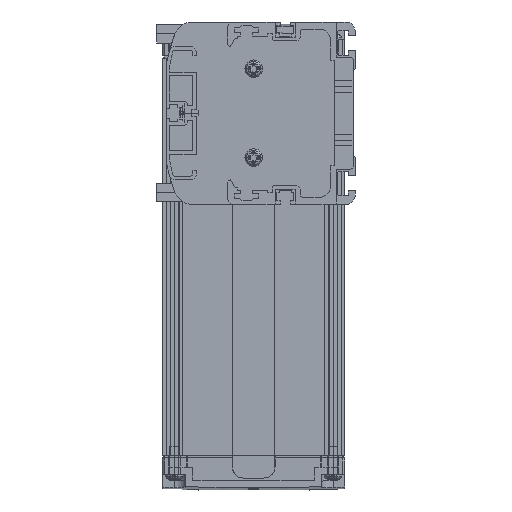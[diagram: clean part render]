
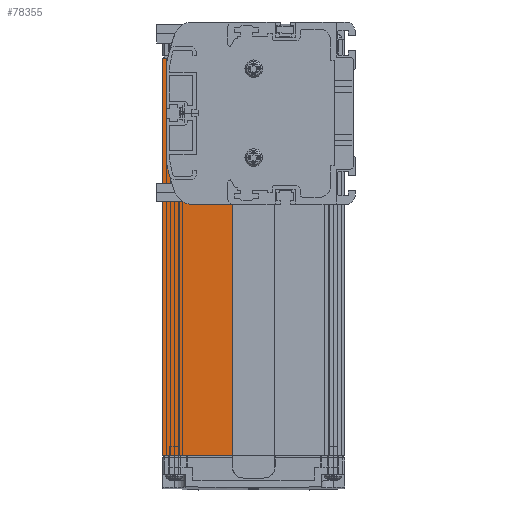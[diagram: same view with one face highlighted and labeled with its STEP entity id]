
A CAD part, left-side view. The second image highlights one B-rep face of the part: STEP entity #78355.
In plain terms, the highlighted planar face has unit normal (-1, 0, 0).
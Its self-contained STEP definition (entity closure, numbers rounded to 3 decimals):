
#76296=DIRECTION('',(0.,0.,1.));
#76297=VECTOR('',#76296,51.);
#76298=CARTESIAN_POINT('',(3.,70.5,-27.5));
#76299=LINE('',#76298,#76297);
#76945=DIRECTION('',(0.,0.,1.));
#76946=VECTOR('',#76945,170.);
#76947=CARTESIAN_POINT('',(3.,82.5,-146.5));
#76948=LINE('',#76947,#76946);
#76963=DIRECTION('',(0.,-1.,0.));
#76964=VECTOR('',#76963,29.9);
#76965=CARTESIAN_POINT('',(3.,82.5,-146.5));
#76966=LINE('',#76965,#76964);
#76967=DIRECTION('',(0.,1.,0.));
#76968=VECTOR('',#76967,12.);
#76969=CARTESIAN_POINT('',(3.,70.5,23.5));
#76970=LINE('',#76969,#76968);
#76971=DIRECTION('',(0.,1.,0.));
#76972=VECTOR('',#76971,17.9);
#76973=CARTESIAN_POINT('',(3.,52.6,-27.5));
#76974=LINE('',#76973,#76972);
#77081=DIRECTION('',(0.,0.,1.));
#77082=VECTOR('',#77081,119.);
#77083=CARTESIAN_POINT('',(3.,52.6,-146.5));
#77084=LINE('',#77083,#77082);
#77168=CARTESIAN_POINT('',(3.,70.5,23.5));
#77170=VERTEX_POINT('',#77168);
#77262=CARTESIAN_POINT('',(3.,82.5,23.5));
#77263=VERTEX_POINT('',#77262);
#77336=CARTESIAN_POINT('',(3.,82.5,-146.5));
#77337=VERTEX_POINT('',#77336);
#77338=CARTESIAN_POINT('',(3.,52.6,-146.5));
#77339=VERTEX_POINT('',#77338);
#77400=CARTESIAN_POINT('',(3.,70.5,-27.5));
#77401=VERTEX_POINT('',#77400);
#77402=CARTESIAN_POINT('',(3.,52.6,-27.5));
#77403=VERTEX_POINT('',#77402);
#78340=CARTESIAN_POINT('',(3.,67.55,-61.5));
#78341=DIRECTION('',(1.,0.,0.));
#78342=DIRECTION('',(0.,1.,0.));
#78343=AXIS2_PLACEMENT_3D('',#78340,#78341,#78342);
#78344=PLANE('',#78343);
#78345=ORIENTED_EDGE('',*,*,#77586,.F.);
#78347=ORIENTED_EDGE('',*,*,#78346,.F.);
#78349=ORIENTED_EDGE('',*,*,#78348,.F.);
#78350=ORIENTED_EDGE('',*,*,#77914,.F.);
#78351=ORIENTED_EDGE('',*,*,#78328,.T.);
#78352=ORIENTED_EDGE('',*,*,#77455,.F.);
#78353=EDGE_LOOP('',(#78345,#78347,#78349,#78350,#78351,#78352));
#78354=FACE_OUTER_BOUND('',#78353,.F.);
#78355=ADVANCED_FACE('',(#78354),#78344,.F.);
#77455=EDGE_CURVE('',#77170,#77263,#76970,.T.);
#77586=EDGE_CURVE('',#77401,#77170,#76299,.T.);
#77914=EDGE_CURVE('',#77337,#77339,#76966,.T.);
#78328=EDGE_CURVE('',#77337,#77263,#76948,.T.);
#78346=EDGE_CURVE('',#77403,#77401,#76974,.T.);
#78348=EDGE_CURVE('',#77339,#77403,#77084,.T.);
